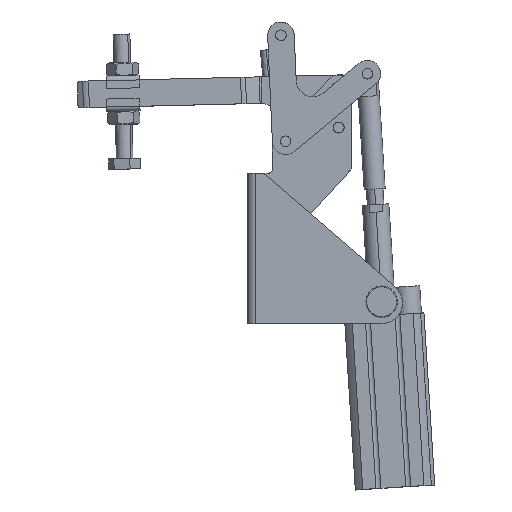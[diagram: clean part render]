
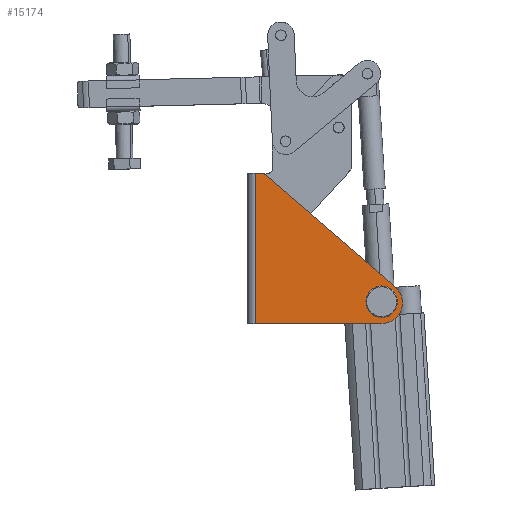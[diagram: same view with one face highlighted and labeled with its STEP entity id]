
A CAD part, top view. The second image highlights one B-rep face of the part: STEP entity #15174.
In plain terms, the highlighted planar face has unit normal (0, 0, 1) as drawn and (1, 0, 0) by its records, which use the part's own axes.
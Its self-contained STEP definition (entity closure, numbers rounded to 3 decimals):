
#410 = LINE ( 'NONE', #9398, #3882 ) ;
#412 = DIRECTION ( 'NONE',  ( -1., 0., 0. ) ) ;
#520 = CARTESIAN_POINT ( 'NONE',  ( 37.5, 85.405, -68.541 ) ) ;
#1242 = VECTOR ( 'NONE', #15017, 1000. ) ;
#1710 = VECTOR ( 'NONE', #15451, 1000. ) ;
#2942 = CARTESIAN_POINT ( 'NONE',  ( 37.5, 77.234, -90.5 ) ) ;
#3834 = VERTEX_POINT ( 'NONE', #14903 ) ;
#3853 = ORIENTED_EDGE ( 'NONE', *, *, #4921, .F. ) ;
#3882 = VECTOR ( 'NONE', #8884, 1000. ) ;
#4162 = VERTEX_POINT ( 'NONE', #17613 ) ;
#4300 = CARTESIAN_POINT ( 'NONE',  ( 37.5, 77.162, -69.276 ) ) ;
#4921 = EDGE_CURVE ( 'NONE', #3834, #18846, #6378, .T. ) ;
#4936 = VERTEX_POINT ( 'NONE', #8997 ) ;
#5199 = AXIS2_PLACEMENT_3D ( 'NONE', #10664, #412, #12399 ) ;
#5217 = ORIENTED_EDGE ( 'NONE', *, *, #15310, .F. ) ;
#5374 = EDGE_CURVE ( 'NONE', #16200, #7522, #15742, .T. ) ;
#5455 = CARTESIAN_POINT ( 'NONE',  ( 37.5, 77.162, -77.376 ) ) ;
#5513 = EDGE_CURVE ( 'NONE', #16200, #11462, #410, .T. ) ;
#6091 = DIRECTION ( 'NONE',  ( 0., 0., 1. ) ) ;
#6378 = LINE ( 'NONE', #18581, #1710 ) ;
#6605 = EDGE_CURVE ( 'NONE', #18846, #4936, #11537, .T. ) ;
#6658 = CIRCLE ( 'NONE', #8898, 8.1 ) ;
#7200 = DIRECTION ( 'NONE',  ( 0., 0., 1. ) ) ;
#7522 = VERTEX_POINT ( 'NONE', #20930 ) ;
#7731 = DIRECTION ( 'NONE',  ( -1., 0., 0. ) ) ;
#7849 = CARTESIAN_POINT ( 'NONE',  ( 37.5, 1., -90.5 ) ) ;
#8084 = ORIENTED_EDGE ( 'NONE', *, *, #5513, .T. ) ;
#8884 = DIRECTION ( 'NONE',  ( 0., 0., -1. ) ) ;
#8898 = AXIS2_PLACEMENT_3D ( 'NONE', #5455, #17462, #7200 ) ;
#8997 = CARTESIAN_POINT ( 'NONE',  ( 37.5, 77.234, -90.5 ) ) ;
#9398 = CARTESIAN_POINT ( 'NONE',  ( 37.5, 1., -78. ) ) ;
#9538 = DIRECTION ( 'NONE',  ( -1., 0., 0. ) ) ;
#10162 = ORIENTED_EDGE ( 'NONE', *, *, #16122, .T. ) ;
#10383 = ORIENTED_EDGE ( 'NONE', *, *, #10654, .T. ) ;
#10654 = EDGE_CURVE ( 'NONE', #4162, #20444, #13535, .T. ) ;
#10664 = CARTESIAN_POINT ( 'NONE',  ( 37.5, 4.202, -5. ) ) ;
#10900 = CARTESIAN_POINT ( 'NONE',  ( 37.5, 77.234, -78. ) ) ;
#11462 = VERTEX_POINT ( 'NONE', #7849 ) ;
#11537 = CIRCLE ( 'NONE', #21676, 12.5 ) ;
#12208 = VECTOR ( 'NONE', #19302, 1000. ) ;
#12399 = DIRECTION ( 'NONE',  ( 0., 0., 1. ) ) ;
#12523 = FACE_BOUND ( 'NONE', #14955, .T. ) ;
#12717 = DIRECTION ( 'NONE',  ( -1., 0., 0. ) ) ;
#13535 = CIRCLE ( 'NONE', #18558, 8.1 ) ;
#14903 = CARTESIAN_POINT ( 'NONE',  ( 37.5, 7.47, -1.216 ) ) ;
#14955 = EDGE_LOOP ( 'NONE', ( #10162, #10383 ) ) ;
#15017 = DIRECTION ( 'NONE',  ( 0., -1., 0. ) ) ;
#15174 = ADVANCED_FACE ( 'NONE', ( #12523, #17667 ), #16402, .F. ) ;
#15310 = EDGE_CURVE ( 'NONE', #4936, #11462, #19464, .T. ) ;
#15353 = CIRCLE ( 'NONE', #5199, 5. ) ;
#15451 = DIRECTION ( 'NONE',  ( 0., 0.757, -0.654 ) ) ;
#15689 = ORIENTED_EDGE ( 'NONE', *, *, #19641, .F. ) ;
#15742 = LINE ( 'NONE', #16104, #12208 ) ;
#16040 = ORIENTED_EDGE ( 'NONE', *, *, #5374, .F. ) ;
#16049 = ORIENTED_EDGE ( 'NONE', *, *, #6605, .F. ) ;
#16104 = CARTESIAN_POINT ( 'NONE',  ( 37.5, -76.734, 0. ) ) ;
#16122 = EDGE_CURVE ( 'NONE', #20444, #4162, #6658, .T. ) ;
#16200 = VERTEX_POINT ( 'NONE', #17602 ) ;
#16402 = PLANE ( 'NONE',  #18618 ) ;
#17462 = DIRECTION ( 'NONE',  ( -1., 0., 0. ) ) ;
#17602 = CARTESIAN_POINT ( 'NONE',  ( 37.5, 1., 0. ) ) ;
#17613 = CARTESIAN_POINT ( 'NONE',  ( 37.5, 77.162, -85.476 ) ) ;
#17667 = FACE_OUTER_BOUND ( 'NONE', #21661, .T. ) ;
#17958 = CARTESIAN_POINT ( 'NONE',  ( 37.5, 77.162, -77.376 ) ) ;
#18558 = AXIS2_PLACEMENT_3D ( 'NONE', #17958, #7731, #19614 ) ;
#18581 = CARTESIAN_POINT ( 'NONE',  ( 37.5, 7.47, -1.216 ) ) ;
#18618 = AXIS2_PLACEMENT_3D ( 'NONE', #19730, #9538, #21398 ) ;
#18846 = VERTEX_POINT ( 'NONE', #520 ) ;
#19302 = DIRECTION ( 'NONE',  ( 0., 1., 0. ) ) ;
#19464 = LINE ( 'NONE', #2942, #1242 ) ;
#19614 = DIRECTION ( 'NONE',  ( 0., 0., 1. ) ) ;
#19641 = EDGE_CURVE ( 'NONE', #7522, #3834, #15353, .T. ) ;
#19730 = CARTESIAN_POINT ( 'NONE',  ( 37.5, 77.234, -78. ) ) ;
#20444 = VERTEX_POINT ( 'NONE', #4300 ) ;
#20930 = CARTESIAN_POINT ( 'NONE',  ( 37.5, 4.202, 0. ) ) ;
#21398 = DIRECTION ( 'NONE',  ( 0., 0., 1. ) ) ;
#21661 = EDGE_LOOP ( 'NONE', ( #16040, #8084, #5217, #16049, #3853, #15689 ) ) ;
#21676 = AXIS2_PLACEMENT_3D ( 'NONE', #10900, #12717, #6091 ) ;
